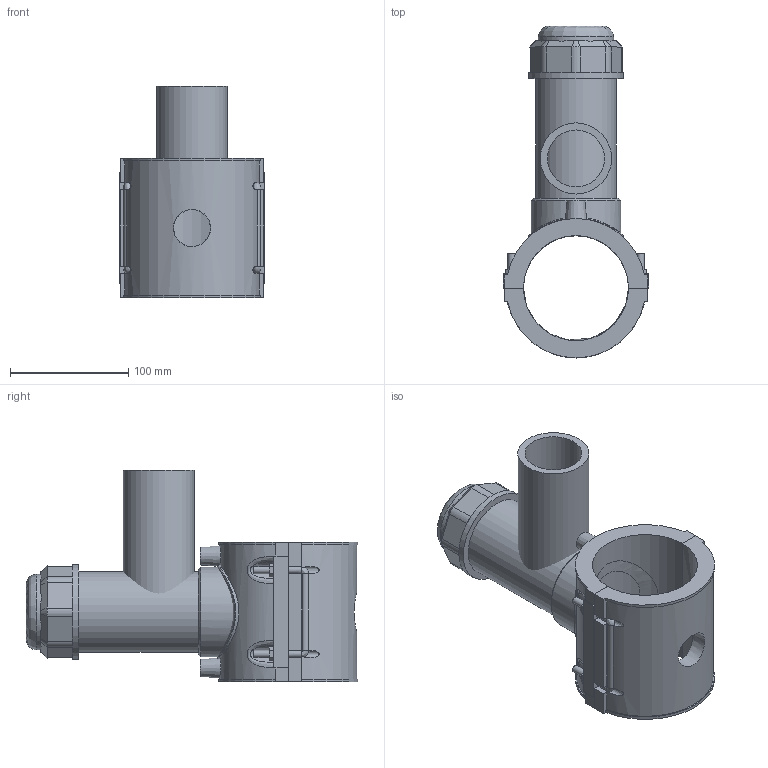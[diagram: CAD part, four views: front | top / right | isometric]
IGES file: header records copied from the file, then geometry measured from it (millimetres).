
Global section: file name: 5963BBP3030020.ipt; native system: Autodesk Inventor 2019; preprocessor: unknown; author: KIM; date: 20210830.101524; units: inch
Bounding box: 122.9 x 280.2 x 178.94 mm (x, y, z)
Volume: 1027362.2 mm3; surface area: 221051.7 mm2
Topology: 3 solids, 3 shells, 204 faces, 526 edges, 343 vertices
Faces by surface type: plane 125, cylinder 37, revolution 21, cone 15, bspline 6
Full cylindrical faces by diameter (mm): 4 x2, 6 x8, 60.1 x1, 63.864 x1, 67.856 x1, 75.839 x1, 79.83 x1
